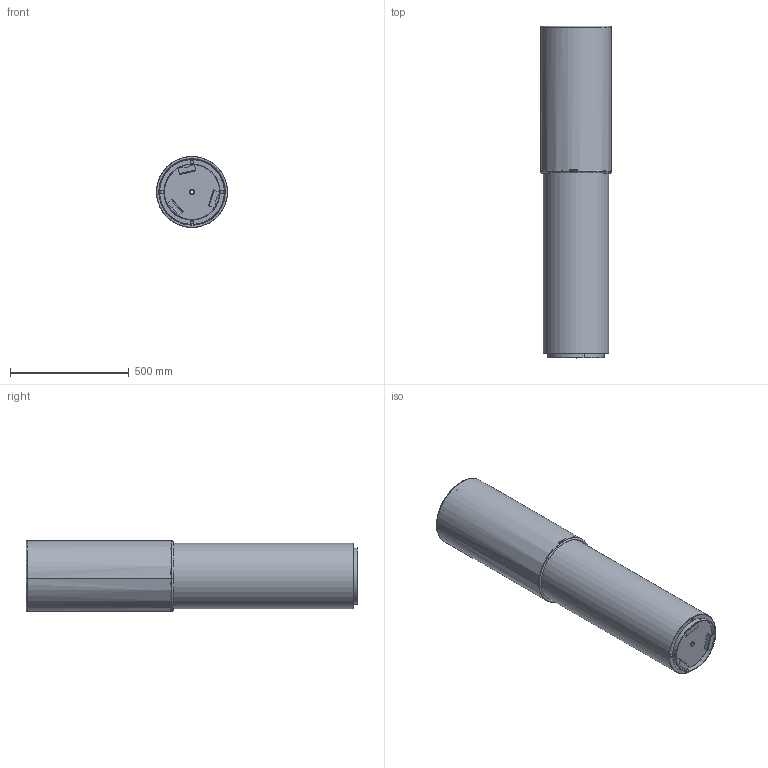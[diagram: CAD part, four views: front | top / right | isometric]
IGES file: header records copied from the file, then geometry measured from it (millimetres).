
Start section: SolidWorks IGES file using analytic representation for surfaces
Global section: file name: \\UTENTI\Dati Utenti\Tecnico\DC\2D - 3D per sito\3D\DeCastelli-3D-Phil 62.igs; native system: SolidWorks 2022; preprocessor: SolidWorks 2022; author: maria; date: 240725.084332; units: millimetre
Bounding box: 298.95 x 1400 x 298.99 mm (x, y, z)
Surface area: 2280673.8 mm2 (no closed solid volume)
Topology: 0 solids, 0 shells, 95 faces, 1958 edges, 1958 vertices
Faces by surface type: bspline 54, revolution 41
